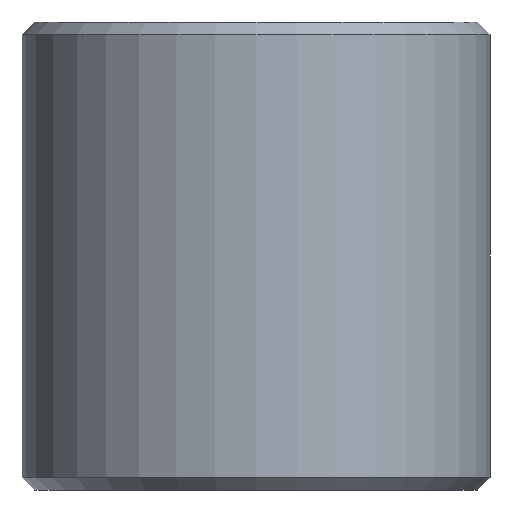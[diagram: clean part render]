
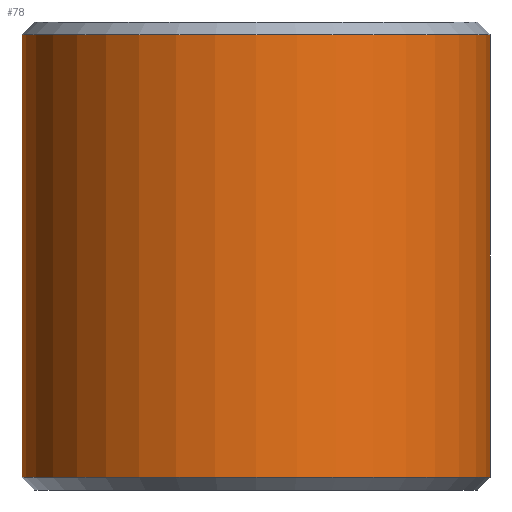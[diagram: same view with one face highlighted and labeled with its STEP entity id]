
A CAD part, front view. The second image highlights one B-rep face of the part: STEP entity #78.
In plain terms, the highlighted cylindrical face has radius 18.5 mm (diameter 37 mm), a full revolution.
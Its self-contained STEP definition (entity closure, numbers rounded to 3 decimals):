
#78=ADVANCED_FACE('',(#91,#92),#93,.T.);
#91=FACE_OUTER_BOUND('',#109,.T.);
#92=FACE_OUTER_BOUND('',#110,.T.);
#93=CYLINDRICAL_SURFACE('',#111,18.5);
#109=EDGE_LOOP('',(#133));
#110=EDGE_LOOP('',(#134));
#111=AXIS2_PLACEMENT_3D('',#135,#136,#137);
#133=ORIENTED_EDGE('',*,*,#152,.T.);
#134=ORIENTED_EDGE('',*,*,#153,.T.);
#135=CARTESIAN_POINT('',(0.0,0.0,18.5));
#136=DIRECTION('',(-0.0,-0.0,1.0));
#137=DIRECTION('',(-1.0,0.0,0.0));
#152=EDGE_CURVE('',#162,#162,#163,.F.);
#153=EDGE_CURVE('',#164,#164,#165,.T.);
#162=VERTEX_POINT('',#174);
#163=CIRCLE('',#175,18.5);
#164=VERTEX_POINT('',#176);
#165=CIRCLE('',#177,18.5);
#174=CARTESIAN_POINT('',(18.5,0.,17.5));
#175=AXIS2_PLACEMENT_3D('',#190,#191,#192);
#176=CARTESIAN_POINT('',(18.5,0.0,-17.5));
#177=AXIS2_PLACEMENT_3D('',#193,#194,#195);
#190=CARTESIAN_POINT('',(0.0,0.0,17.5));
#191=DIRECTION('',(0.0,0.0,1.0));
#192=DIRECTION('',(1.0,0.0,0.0));
#193=CARTESIAN_POINT('',(0.0,0.0,-17.5));
#194=DIRECTION('',(0.0,0.0,1.0));
#195=DIRECTION('',(1.0,0.0,0.0));
